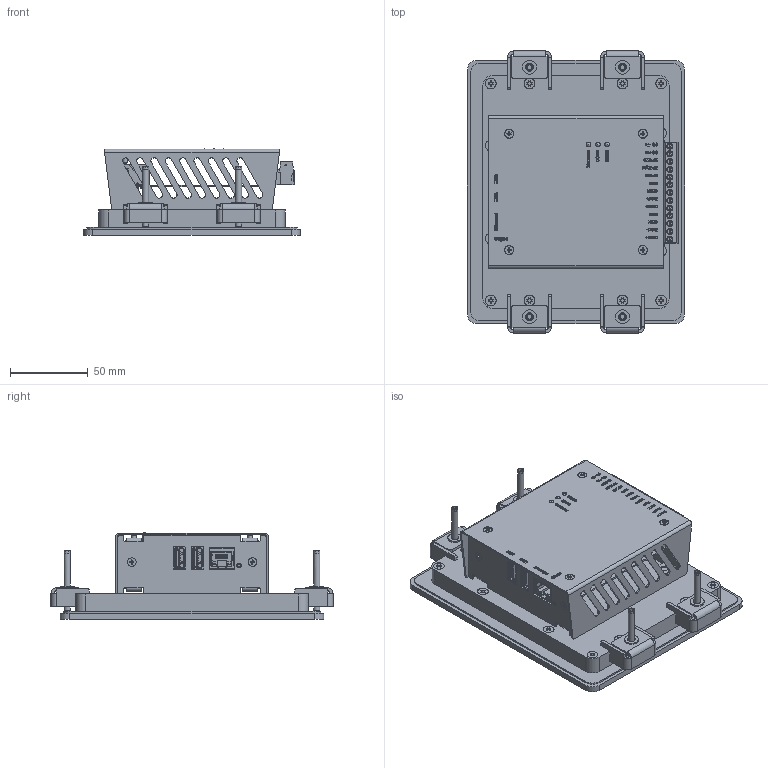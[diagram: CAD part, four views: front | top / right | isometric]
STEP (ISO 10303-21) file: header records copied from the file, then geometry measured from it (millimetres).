
FILE_DESCRIPTION(('STEP AP214'), '1');
FILE_NAME('NLcon-CED05 IP65_1', '', ('UNSPECIFIED'), ('UNSPECIFIED'), 'C3D Converter', 'C3D Toolkit', '');
FILE_SCHEMA(('AUTOMOTIVE_DESIGN { 1 0 10303 214 3 1 1}'));
Length unit declared in the file: millimetre
Assembly tree (10 placements, depth 3):
  (unnamed)
    (unnamed)
      (unnamed)
      (unnamed)
      (unnamed)
      (unnamed)  x2
    (unnamed)  x4
Bounding box: 140 x 182 x 55.78 mm (x, y, z)
Volume: 353713.1 mm3; surface area: 153806.2 mm2
Topology: 13 solids, 28 shells, 5292 faces, 14474 edges, 9417 vertices
Faces by surface type: plane 3550, cylinder 1134, extrusion 275, torus 175, cone 104, sphere 29, bspline 21, revolution 4
Full cylindrical faces by diameter (mm): 0.8 x9, 0.85 x4, 0.89 x8, 0.92 x8, 0.965 x7, 1 x4, 1.02 x4, 1.35 x8, 1.6 x2, 2.9 x1, 3 x15, 3.3 x2, 3.6 x1, 3.95 x13, 4 x10, 4.95 x8, 5 x7, 5.6 x4, 6 x4, 6.5 x4, 6.8 x12, 9 x4
Entity records: 227293 total; most frequent: CARTESIAN_POINT 68399, ORIENTED_EDGE 25752, DIRECTION 23039, EDGE_CURVE 12876, VECTOR 9605, LINE 9330, VERTEX_POINT 8522, AXIS2_PLACEMENT_3D 6715
